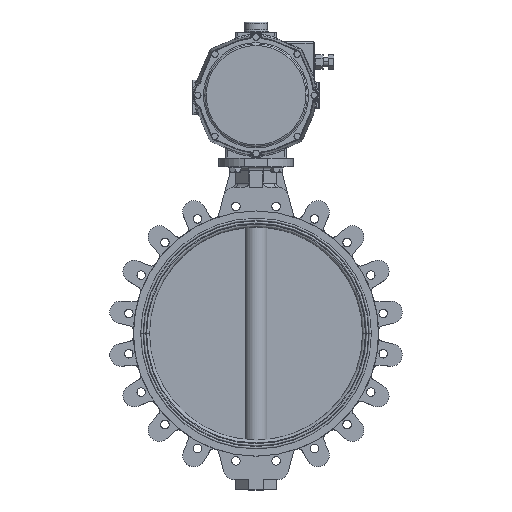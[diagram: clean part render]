
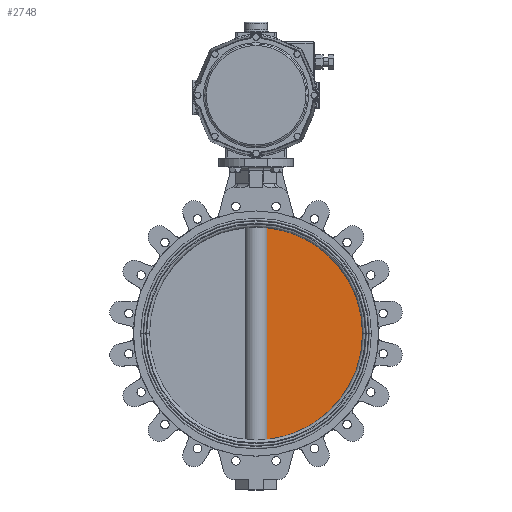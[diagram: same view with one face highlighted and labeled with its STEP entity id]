
A CAD part, top view. The second image highlights one B-rep face of the part: STEP entity #2748.
In plain terms, the highlighted planar face has unit normal (0, 0, 1).
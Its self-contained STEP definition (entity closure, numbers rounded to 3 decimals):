
#2115 = EDGE_CURVE ( 'NONE', #41469, #28108, #8904, .T. ) ;
#2321 = EDGE_CURVE ( 'NONE', #35530, #28108, #21314, .T. ) ;
#2748 = ADVANCED_FACE ( 'NONE', ( #24205 ), #20213, .F. ) ;
#2858 = VECTOR ( 'NONE', #34767, 1000. ) ;
#4652 = ORIENTED_EDGE ( 'NONE', *, *, #2115, .F. ) ;
#5116 = ORIENTED_EDGE ( 'NONE', *, *, #2321, .T. ) ;
#8904 = CIRCLE ( 'NONE', #12209, 300. ) ;
#11439 = EDGE_LOOP ( 'NONE', ( #40678, #5116, #4652 ) ) ;
#11994 = DIRECTION ( 'NONE',  ( 0., 0., -1. ) ) ;
#12209 = AXIS2_PLACEMENT_3D ( 'NONE', #34858, #24976, #15684 ) ;
#15684 = DIRECTION ( 'NONE',  ( -1., 0., 0. ) ) ;
#19907 = CARTESIAN_POINT ( 'NONE',  ( 0., 0., 10. ) ) ;
#20213 = PLANE ( 'NONE',  #34644 ) ;
#21314 = LINE ( 'NONE', #24674, #2858 ) ;
#21625 = EDGE_CURVE ( 'NONE', #35530, #41469, #23647, .T. ) ;
#23647 = CIRCLE ( 'NONE', #34387, 300. ) ;
#24205 = FACE_OUTER_BOUND ( 'NONE', #11439, .T. ) ;
#24674 = CARTESIAN_POINT ( 'NONE',  ( 30.397, 542.001, 10. ) ) ;
#24976 = DIRECTION ( 'NONE',  ( 0., 0., -1. ) ) ;
#26926 = CARTESIAN_POINT ( 'NONE',  ( 30.397, -298.456, 10. ) ) ;
#28108 = VERTEX_POINT ( 'NONE', #26926 ) ;
#28396 = DIRECTION ( 'NONE',  ( -1., 0., 0. ) ) ;
#28976 = DIRECTION ( 'NONE',  ( -1., 0., 0. ) ) ;
#31900 = CARTESIAN_POINT ( 'NONE',  ( 300., 0., 10. ) ) ;
#32550 = DIRECTION ( 'NONE',  ( 0., 0., -1. ) ) ;
#34312 = CARTESIAN_POINT ( 'NONE',  ( 30.397, 298.456, 10. ) ) ;
#34387 = AXIS2_PLACEMENT_3D ( 'NONE', #19907, #32550, #28976 ) ;
#34644 = AXIS2_PLACEMENT_3D ( 'NONE', #40359, #11994, #28396 ) ;
#34767 = DIRECTION ( 'NONE',  ( 0., -1., 0. ) ) ;
#34858 = CARTESIAN_POINT ( 'NONE',  ( 0., 0., 10. ) ) ;
#35530 = VERTEX_POINT ( 'NONE', #34312 ) ;
#40359 = CARTESIAN_POINT ( 'NONE',  ( 30.397, 542.001, 10. ) ) ;
#40678 = ORIENTED_EDGE ( 'NONE', *, *, #21625, .F. ) ;
#41469 = VERTEX_POINT ( 'NONE', #31900 ) ;
